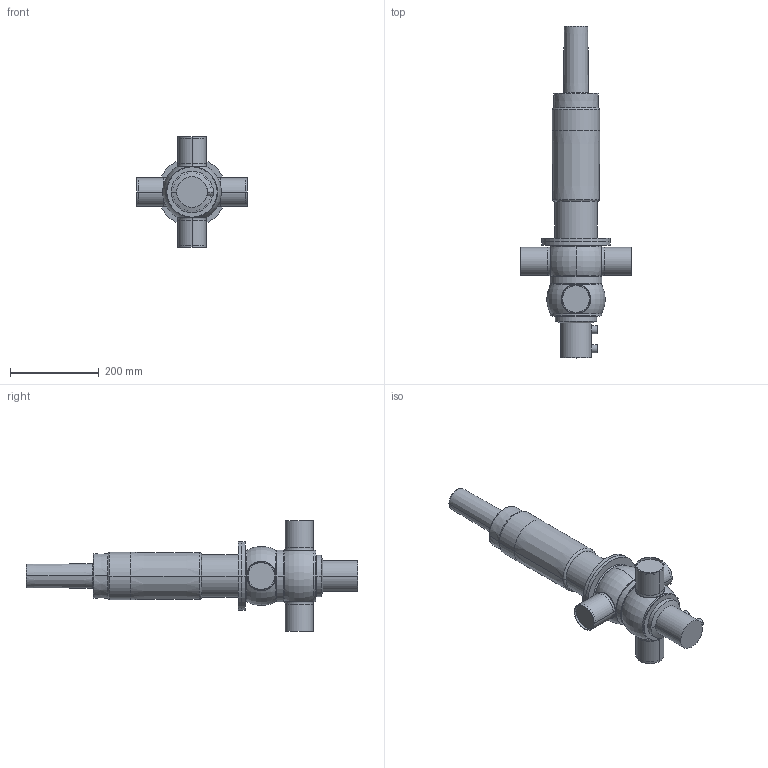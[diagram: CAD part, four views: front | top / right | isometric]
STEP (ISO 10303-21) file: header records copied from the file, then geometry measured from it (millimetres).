
FILE_DESCRIPTION(('Creo Elements/Direct Modeling STEP Export'),'2;1');
FILE_NAME('D44SL-2.5T_prox..stp','2019-09-04T 8:44:11',(''),(''),'PTC Creo Elements/Direct Modeling STEP processor for AP214 (Solid Model)','PTC Creo Elements/Direct Modeling 19.0B 21-Mar-2015 (C) Parametric Technology GmbH','');
FILE_SCHEMA(('AUTOMOTIVE_DESIGN { 1 0 10303 214 1 1 1 1 }'));
Length unit declared in the file: millimetre
Products named in the file (5): Gehäuse_D4-2.5T; actuator_D4SL-100_yoke; D4_Prox._holder.; drain_pipe-62; D44SL-2.5T_prox.
Assembly tree (4 placements, depth 2):
  D44SL-2.5T_prox.
    drain_pipe-62
    D4_Prox._holder.
    actuator_D4SL-100_yoke
    Gehäuse_D4-2.5T
Bounding box: 250 x 749.95 x 250 mm (x, y, z)
Volume: 6599404.8 mm3; surface area: 398404.8 mm2
Topology: 4 solids, 4 shells, 134 faces, 273 edges, 167 vertices
Faces by surface type: cylinder 48, torus 42, plane 32, cone 12
Entity records: 7349 total; most frequent: CARTESIAN_POINT 4584, DIRECTION 568, ORIENTED_EDGE 546, EDGE_CURVE 273, AXIS2_PLACEMENT_3D 254, VERTEX_POINT 167, EDGE_LOOP 154, FACE_OUTER_BOUND 134
